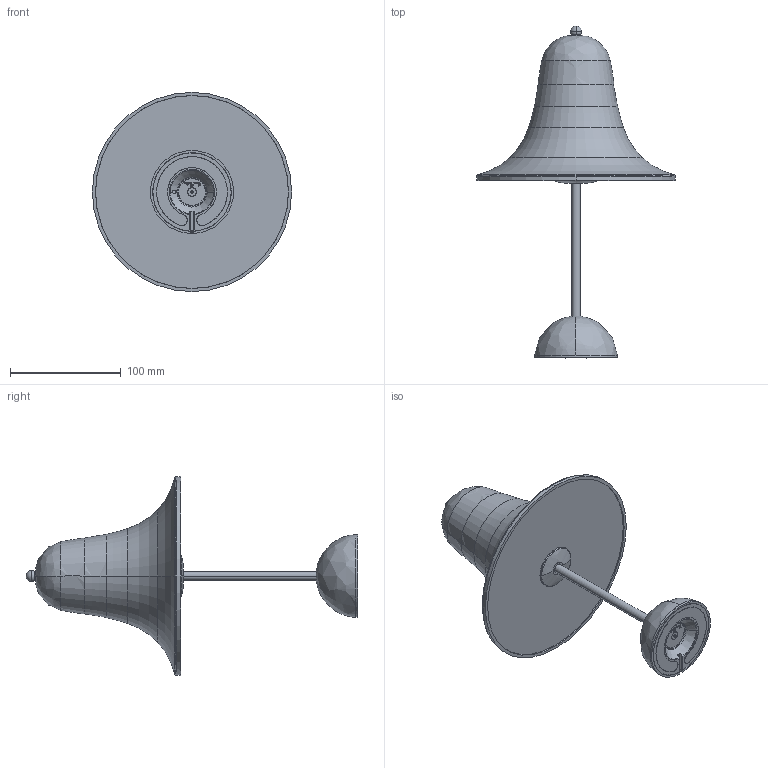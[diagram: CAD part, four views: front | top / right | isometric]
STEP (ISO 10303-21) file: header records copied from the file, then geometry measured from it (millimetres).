
FILE_DESCRIPTION (( 'STEP AP214' ), '1' );
FILE_NAME ('Pantop portable 3D drawing Simplified.STEP', '2022-02-08T10:51:36', ( '' ), ( '' ), 'SwSTEP 2.0', 'SolidWorks 2020', '' );
FILE_SCHEMA (( 'AUTOMOTIVE_DESIGN' ));
Length unit declared in the file: millimetre
Products named in the file (1): Pantop portable 3D drawing Simplified
Bounding box: 180 x 299.96 x 180 mm (x, y, z)
Surface area: 94015.3 mm2 (no closed solid volume)
Topology: 0 solids, 11 shells, 100 faces, 921 edges, 816 vertices
Faces by surface type: torus 23, plane 20, cylinder 20, bspline 20, cone 13, sphere 4
Entity records: 12633 total; most frequent: CARTESIAN_POINT 6676, ORIENTED_EDGE 1110, EDGE_CURVE 910, VERTEX_POINT 815, B_SPLINE_CURVE_WITH_KNOTS 765, DIRECTION 427, AXIS2_PLACEMENT_3D 203, CIRCLE 122
